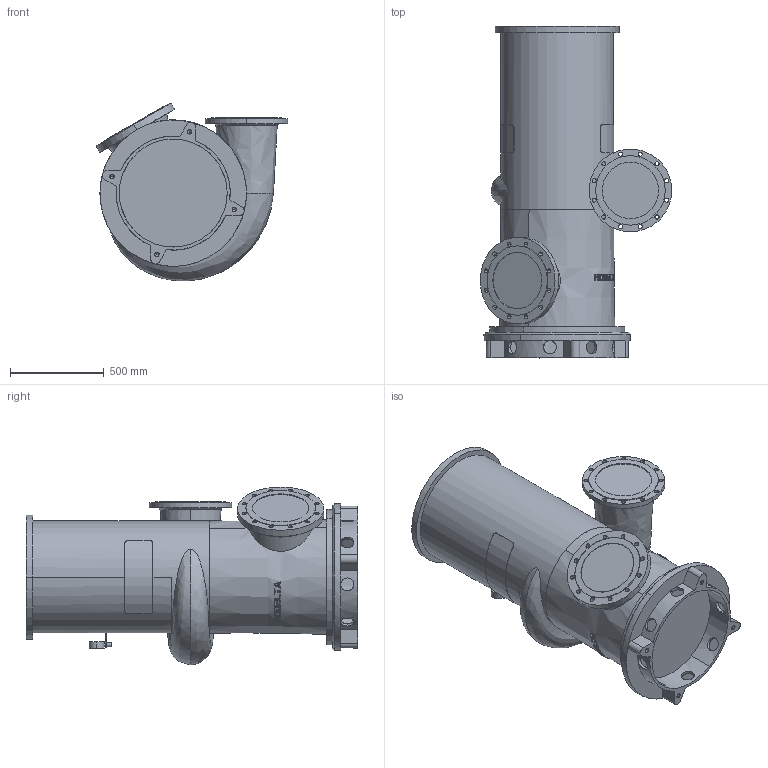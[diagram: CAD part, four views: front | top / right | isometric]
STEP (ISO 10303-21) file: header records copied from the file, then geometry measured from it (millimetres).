
FILE_DESCRIPTION((''),'2;1');
FILE_NAME('12-520_ASM','2024-08-06T',('Lyritlocal'),(''),'PRO/ENGINEER BY PARAMETRIC TECHNOLOGY CORPORATION, 2016360','PRO/ENGINEER BY PARAMETRIC TECHNOLOGY CORPORATION, 2016360','');
FILE_SCHEMA(('CONFIG_CONTROL_DESIGN'));
Length unit declared in the file: millimetre
Products named in the file (3): 12-520; 12-520_VOET; 12-520_ASM
Assembly tree (2 placements, depth 2):
  12-520_ASM
    12-520
    12-520_VOET
Bounding box: 1019.69 x 1766.5 x 947.56 mm (x, y, z)
Volume: 566586530 mm3; surface area: 6652634.1 mm2
Topology: 2 solids, 6 shells, 503 faces, 1366 edges, 900 vertices
Faces by surface type: plane 323, cylinder 138, cone 36, bspline 6
Entity records: 17785 total; most frequent: CARTESIAN_POINT 5428, ORIENTED_EDGE 2700, DIRECTION 2313, EDGE_CURVE 1358, VERTEX_POINT 900, AXIS2_PLACEMENT_3D 896, EDGE_LOOP 608, VECTOR 521
